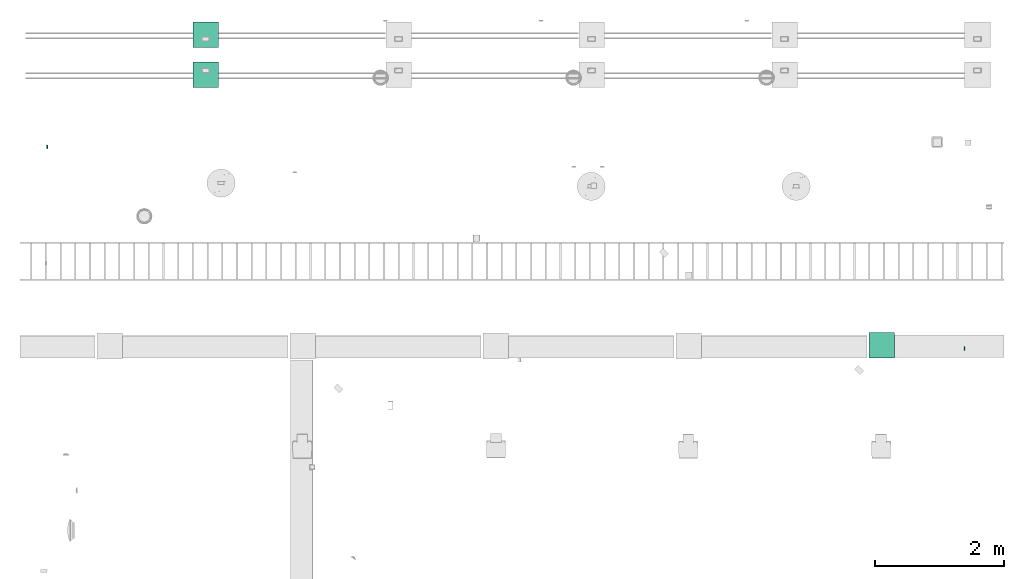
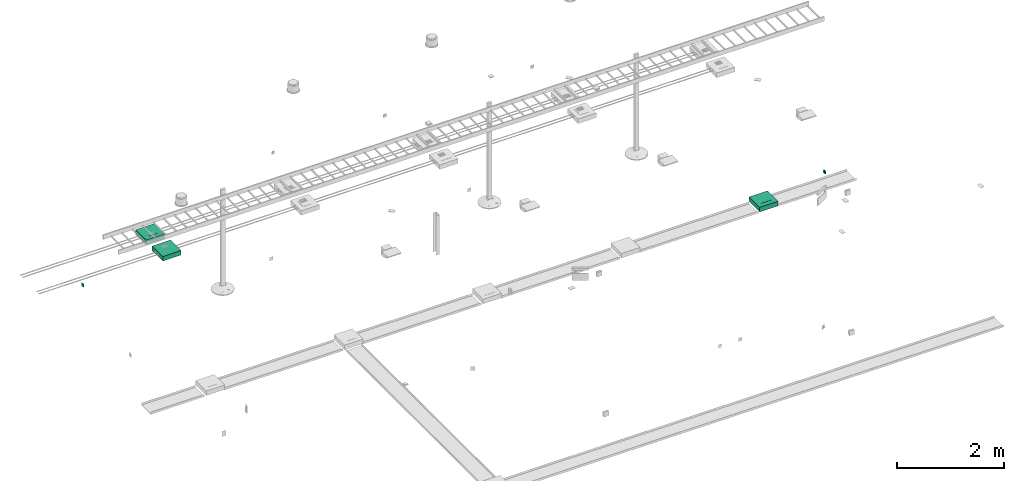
# One storey, part 14 of 24: 5 flow terminals.
"""IFC2X3 building model written with IfcOpenShell, lengths in millimetres."""

from ifc_helpers import new_model, entity, si_unit, converted_unit, derived_unit, direction, frame, origin_with_axes, place, context, subcontext, project, spatial, open_shell, surface_model, source, transform, mapped, type_object, element, save


model = new_model("IFC2X3")

# Units and contexts
model_context = context("Model", 3, precision=0.01, world=frame((0.0, 4.29681676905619e-09, 0.0)), true_north=direction((4.01073788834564e-13, 1.0)))
plan_context = context("Plan", 3, precision=0.01, world=frame((0.0, 4.29681676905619e-09, 0.0)), true_north=direction((4.01073788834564e-13, 1.0)))
body_context = subcontext(model_context, "Body", "Model", "MODEL_VIEW")
ifc_project = project(units=[converted_unit("PLANEANGLEUNIT", "DEGREE", entity("IfcPositiveLengthMeasure", 0.0174532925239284), si_unit("PLANEANGLEUNIT", "RADIAN"), dimensions=[0, 0, 0, 0, 0, 0, 0]), si_unit("AREAUNIT", "SQUARE_METRE"), si_unit("LENGTHUNIT", "METRE", prefix="MILLI"), si_unit("MASSUNIT", "GRAM", prefix="KILO"), si_unit("POWERUNIT", "WATT"), si_unit("PRESSUREUNIT", "PASCAL"), si_unit("FORCEUNIT", "NEWTON", prefix="KILO"), si_unit("ELECTRICVOLTAGEUNIT", "VOLT"), si_unit("ELECTRICCURRENTUNIT", "AMPERE"), si_unit("THERMODYNAMICTEMPERATUREUNIT", "DEGREE_CELSIUS"), si_unit("TIMEUNIT", "SECOND"), si_unit("VOLUMEUNIT", "CUBIC_METRE"), derived_unit("LINEARVELOCITYUNIT", [(si_unit("LENGTHUNIT", "METRE"), 1), (si_unit("TIMEUNIT", "SECOND"), -1)]), derived_unit("VOLUMETRICFLOWRATEUNIT", [(si_unit("VOLUMEUNIT", "CUBIC_METRE"), 1), (si_unit("TIMEUNIT", "SECOND"), -1)]), derived_unit("THERMALTRANSMITTANCEUNIT", [(si_unit("POWERUNIT", "WATT"), 1), (si_unit("THERMODYNAMICTEMPERATUREUNIT", "KELVIN"), -1), (si_unit("AREAUNIT", "SQUARE_METRE"), -1)]), derived_unit("SOUNDPRESSUREUNIT", [(si_unit("PRESSUREUNIT", "PASCAL"), 1)])], contexts=[model_context, plan_context])

# Site, building, storey
site_placement = place(None, frame((0.0, -4.29681676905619e-09, 0.0), z_axis=(0.0, 0.0, 1.0), x_axis=(1.0, 0.0, 0.0)))
site = spatial("IfcSite", under=ifc_project, at=site_placement, Name="ENGM", CompositionType="ELEMENT")
building_placement = place(site_placement, frame((0.0, 4.29681676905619e-09, 0.0), z_axis=(0.0, 0.0, 1.0), x_axis=(1.0, 0.0, 0.0)))
building = spatial("IfcBuilding", under=site, at=building_placement, Name="TH", CompositionType="ELEMENT")
storey_placement = place(building_placement, frame((0.0, 0.0, 210200.0), z_axis=(0.0, 0.0, 1.0), x_axis=(1.0, 0.0, 0.0)))
storey = spatial("IfcBuildingStorey", under=building, at=storey_placement, Name="Nivå F - 0,7 m", CompositionType="ELEMENT", Elevation=210200.0)

# Flow terminals
electric_appliance_type_1 = type_object("IfcElectricApplianceType", Name="Gulvboks 400x400", PredefinedType="NOTDEFINED")
shared_shape_1 = source(origin_with_axes(), body_context, "Body", "SurfaceModel", [
    surface_model("IfcShellBasedSurfaceModel", [(199.96, -199.96, -8.96812), (199.96, 200.0, -8.96812), (-200.0, 200.0, -8.96812), (-200.0, -199.96, -8.96812), (-200.0, -199.96, -108.96812), (-200.0, 200.0, -108.96812), (199.96, -199.96, -108.96812), (199.96, 200.0, -108.96812), (99.91278, -102.96181, -1.48406), (99.91278, 100.0, -1.48406), (-100.0, -102.96181, -1.48406), (-100.0, 100.0, -1.48406), (-100.0, -102.96181, -4.48406), (-100.0, 100.0, -4.48406), (99.91278, 100.0, -4.48406), (99.91278, -102.96181, -4.48406), (199.96, -199.96, -4.48406), (199.96, 200.0, -4.48406), (-200.0, 200.0, -4.48406), (-200.0, -199.96, -4.48406), (-200.0, -199.96, -104.48406), (-200.0, 200.0, -104.48406), (199.96, -199.96, -104.48406), (199.96, 200.0, -104.48406)], [open_shell([[[0, 1, 2]], [[2, 3, 0]], [[4, 5, 6]], [[7, 6, 5]], [[2, 1, 7]], [[7, 5, 2]], [[3, 2, 5]], [[5, 4, 3]], [[0, 3, 4]], [[4, 6, 0]], [[1, 0, 6]], [[6, 7, 1]], [[8, 9, 10]], [[11, 10, 9]], [[12, 13, 14]], [[14, 15, 12]], [[11, 9, 14]], [[14, 13, 11]], [[10, 11, 13]], [[13, 12, 10]], [[8, 10, 12]], [[12, 15, 8]], [[9, 8, 15]], [[15, 14, 9]], [[16, 17, 18]], [[18, 19, 16]], [[20, 21, 22]], [[23, 22, 21]], [[18, 17, 23]], [[23, 21, 18]], [[19, 18, 21]], [[21, 20, 19]], [[16, 19, 20]], [[20, 22, 16]], [[17, 16, 22]], [[22, 23, 17]]])]),
])
for number, where, z_axis, x_axis, name in (
    (1, (897999.725, 486999.56407, 1.5), (0.0, 0.0, 1.0), (1.0, 0.0, 0.0), "Gulvboks 400x400"),
    (2, (897999.725, 486379.56407, 1.5), (0.0, 0.0, 1.0), (1.0, 0.0, 0.0), "Gulvboks 400x400"),
):
    element("IfcFlowTerminal", number, at=place(storey_placement, frame(where, z_axis=z_axis, x_axis=x_axis)), inside=storey, type_object=electric_appliance_type_1, Name=name, context=body_context, shape_type="MappedRepresentation", body=[
        mapped(shared_shape_1, transform((0.0, 0.0, 0.0), scale=1.0)),
    ])
electric_appliance_type_2 = type_object("IfcElectricApplianceType", Name="OTHER-EE-POWER-BALANCED-DUMMY", PredefinedType="NOTDEFINED")
flow_terminal_placement = place(storey_placement, frame((908507.89, 482172.8065, 1.5), z_axis=(0.0, 0.0, 1.0), x_axis=(1.0, 0.0, 0.0)))
element("IfcFlowTerminal", 3, at=flow_terminal_placement, inside=storey, type_object=electric_appliance_type_2, Name="OTHER-EE-POWER-BALANCED-DUMMY", context=body_context, shape_type="MappedRepresentation", body=[
    mapped(shared_shape_1, transform((0.0, 0.0, 0.0), scale=1.0)),
])
outlet_type = type_object("IfcOutletType", Name="Datauttak dobbel Vegg - IKT", PredefinedType="COMMUNICATIONSOUTLET")
shared_shape_2 = source(origin_with_axes(), body_context, "Body", "SurfaceModel", [
    surface_model("IfcShellBasedSurfaceModel", [(35.5, 5.05547, 35.5832), (25.5, 20.05547, 25.5832), (-35.5, 5.05547, 35.5832), (-25.5, 20.05547, 25.5832), (-35.5, 4.94453, 35.41679), (-25.5, 19.94453, 25.41679), (25.5, 19.94453, 25.41679), (35.5, 4.94453, 35.41679), (35.5, 4.94453, -35.41679), (25.5, 19.94453, -25.41679), (-35.5, 4.94453, -35.41679), (-25.5, 19.94453, -25.41679), (-35.5, 5.05547, -35.5832), (-25.5, 20.05547, -25.5832), (25.5, 20.05547, -25.5832), (35.5, 5.05547, -35.5832), (-25.5832, 20.05547, -25.5), (-35.5832, 5.05547, -35.5), (-35.5832, 5.05547, 35.5), (-25.5832, 20.05547, 25.5), (-25.41679, 19.94453, 25.5), (-35.41679, 4.94453, 35.5), (-25.41679, 19.94453, -25.5), (-35.41679, 4.94453, -35.5), (25.41679, 19.94453, -25.5), (35.41679, 4.94453, -35.5), (35.41679, 4.94453, 35.5), (25.41679, 19.94453, 25.5), (25.5832, 20.05547, 25.5), (35.5832, 5.05547, 35.5), (25.5832, 20.05547, -25.5), (35.5832, 5.05547, -35.5), (35.4, 5.0, -35.5), (35.4, 0.0, -35.5), (35.4, 0.0, 35.5), (35.4, 5.0, 35.5), (35.6, 5.0, 35.5), (35.6, 0.0, 35.5), (35.6, 0.0, -35.5), (35.6, 5.0, -35.5), (-35.5, 0.0, -35.6), (-35.5, 5.0, -35.6), (35.5, 5.0, -35.6), (35.5, 0.0, -35.6), (35.5, 0.0, -35.4), (35.5, 5.0, -35.4), (-35.5, 5.0, -35.4), (-35.5, 0.0, -35.4), (-35.6, 5.0, -35.5), (-35.6, 0.0, -35.5), (-35.6, 0.0, 35.5), (-35.6, 5.0, 35.5), (-35.4, 5.0, 35.5), (-35.4, 0.0, 35.5), (-35.4, 0.0, -35.5), (-35.4, 5.0, -35.5), (-35.5, -0.1, -35.5), (35.5, -0.1, -35.5), (35.5, -0.1, 35.5), (-35.5, -0.1, 35.5), (-35.5, 0.1, 35.5), (35.5, 0.1, 35.5), (35.5, 0.1, -35.5), (-35.5, 0.1, -35.5), (-35.5, 0.0, 35.4), (-35.5, 5.0, 35.4), (35.5, 5.0, 35.4), (35.5, 0.0, 35.4), (35.5, 0.0, 35.6), (35.5, 5.0, 35.6), (-35.5, 5.0, 35.6), (-35.5, 0.0, 35.6), (-25.5, 19.9, -25.5), (25.5, 19.9, -25.5), (25.5, 19.9, 25.5), (-25.5, 19.9, 25.5), (-25.5, 20.1, 25.5), (25.5, 20.1, 25.5), (25.5, 20.1, -25.5), (-25.5, 20.1, -25.5), (-17.5, 21.91, -6.5), (-2.5, 21.91, -6.5), (-17.5, 21.91, 8.5), (-2.5, 21.91, 8.5), (-17.5, 22.11, 8.5), (-2.5, 22.11, 8.5), (-17.5, 22.11, -6.5), (-2.5, 22.11, -6.5), (2.5, 21.91, -6.5), (17.5, 21.91, -6.5), (17.5, 21.91, 8.5), (2.5, 21.91, 8.5), (2.5, 22.11, 8.5), (17.5, 22.11, 8.5), (2.5, 22.11, -6.5), (17.5, 22.11, -6.5), (-25.5, 22.0, 25.5), (-25.5, 20.0, 25.5), (25.5, 20.0, 25.5), (25.5, 22.0, 25.5), (25.5, 22.0, 20.5), (25.5, 20.0, 20.5), (-25.5, 20.0, 20.5), (-25.5, 22.0, 20.5), (-25.5, 22.0, 10.5), (-25.5, 20.0, 10.5), (25.5, 20.0, 10.5), (25.5, 22.0, 10.5), (25.5, 22.0, -25.5), (25.5, 20.0, -25.5), (-25.5, 20.0, -25.5), (-25.5, 22.0, -25.5)], [open_shell([[[0, 1, 2]], [[3, 2, 1]], [[4, 5, 6]], [[6, 7, 4]], [[3, 1, 6]], [[6, 5, 3]], [[2, 3, 4]], [[5, 4, 3]], [[0, 2, 7]], [[4, 7, 2]], [[1, 0, 6]], [[7, 6, 0]], [[8, 9, 10]], [[11, 10, 9]], [[12, 13, 14]], [[14, 15, 12]], [[11, 9, 14]], [[14, 13, 11]], [[10, 11, 12]], [[13, 12, 11]], [[8, 10, 12]], [[12, 15, 8]], [[9, 8, 14]], [[15, 14, 8]], [[16, 17, 18]], [[18, 19, 16]], [[20, 21, 22]], [[23, 22, 21]], [[18, 17, 23]], [[23, 21, 18]], [[19, 18, 20]], [[21, 20, 18]], [[16, 19, 20]], [[20, 22, 16]], [[17, 16, 22]], [[22, 23, 17]], [[24, 25, 26]], [[26, 27, 24]], [[28, 29, 30]], [[31, 30, 29]], [[26, 25, 31]], [[31, 29, 26]], [[27, 26, 28]], [[29, 28, 26]], [[24, 27, 28]], [[28, 30, 24]], [[25, 24, 30]], [[30, 31, 25]], [[32, 33, 34]], [[34, 35, 32]], [[36, 37, 38]], [[38, 39, 36]], [[34, 33, 38]], [[38, 37, 34]], [[35, 34, 37]], [[37, 36, 35]], [[32, 35, 36]], [[36, 39, 32]], [[33, 32, 39]], [[39, 38, 33]], [[40, 41, 42]], [[42, 43, 40]], [[44, 45, 46]], [[46, 47, 44]], [[42, 41, 46]], [[46, 45, 42]], [[43, 42, 45]], [[45, 44, 43]], [[40, 43, 44]], [[44, 47, 40]], [[41, 40, 47]], [[47, 46, 41]], [[48, 49, 50]], [[50, 51, 48]], [[52, 53, 54]], [[54, 55, 52]], [[50, 49, 54]], [[54, 53, 50]], [[51, 50, 53]], [[53, 52, 51]], [[48, 51, 52]], [[52, 55, 48]], [[49, 48, 55]], [[55, 54, 49]], [[56, 57, 58]], [[58, 59, 56]], [[60, 61, 62]], [[62, 63, 60]], [[58, 57, 62]], [[62, 61, 58]], [[59, 58, 61]], [[61, 60, 59]], [[56, 59, 60]], [[60, 63, 56]], [[57, 56, 63]], [[63, 62, 57]], [[64, 65, 66]], [[66, 67, 64]], [[68, 69, 70]], [[70, 71, 68]], [[66, 65, 70]], [[70, 69, 66]], [[67, 66, 69]], [[69, 68, 67]], [[64, 67, 68]], [[68, 71, 64]], [[65, 64, 71]], [[71, 70, 65]], [[72, 73, 74]], [[74, 75, 72]], [[76, 77, 78]], [[78, 79, 76]], [[74, 73, 78]], [[78, 77, 74]], [[75, 74, 77]], [[77, 76, 75]], [[72, 75, 76]], [[76, 79, 72]], [[73, 72, 79]], [[79, 78, 73]], [[80, 81, 82]], [[83, 82, 81]], [[84, 85, 86]], [[87, 86, 85]], [[83, 81, 87]], [[87, 85, 83]], [[82, 83, 85]], [[85, 84, 82]], [[80, 82, 84]], [[84, 86, 80]], [[81, 80, 86]], [[86, 87, 81]], [[88, 89, 90]], [[90, 91, 88]], [[92, 93, 94]], [[95, 94, 93]], [[90, 89, 95]], [[95, 93, 90]], [[91, 90, 93]], [[93, 92, 91]], [[88, 91, 92]], [[92, 94, 88]], [[89, 88, 94]], [[94, 95, 89]], [[96, 97, 98]], [[98, 99, 96]], [[100, 101, 102]], [[102, 103, 100]], [[98, 97, 102]], [[102, 101, 98]], [[99, 98, 101]], [[101, 100, 99]], [[96, 99, 100]], [[100, 103, 96]], [[97, 96, 103]], [[103, 102, 97]], [[104, 105, 106]], [[106, 107, 104]], [[108, 109, 110]], [[110, 111, 108]], [[106, 105, 110]], [[110, 109, 106]], [[107, 106, 109]], [[109, 108, 107]], [[104, 107, 108]], [[108, 111, 104]], [[105, 104, 111]], [[111, 110, 105]]])]),
])
for number, where, z_axis, x_axis, name in (
    (4, (909806.99699, 482121.81604, 200.0), (0.0, 0.0, 1.0), (0.0, 1.0, 0.0), "Datauttak dobbel Vegg - IKT"),
    (5, (895523.20379, 485256.47981, 700.0), (0.0, 0.0, 1.0), (0.0, -1.0, 0.0), "Datauttak dobbel Vegg - IKT"),
):
    element("IfcFlowTerminal", number, at=place(storey_placement, frame(where, z_axis=z_axis, x_axis=x_axis)), inside=storey, type_object=outlet_type, Name=name, context=body_context, shape_type="MappedRepresentation", body=[
        mapped(shared_shape_2, transform((0.0, 0.0, 0.0), scale=1.0)),
    ])

save(model, "model.ifc")
